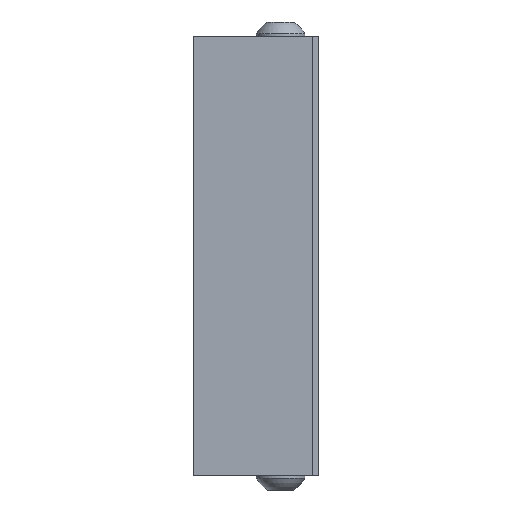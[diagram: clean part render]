
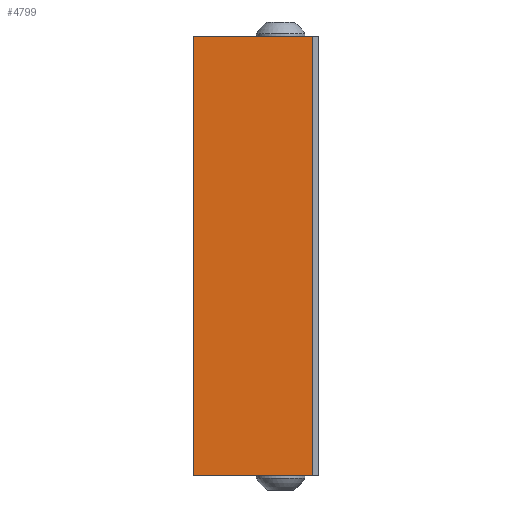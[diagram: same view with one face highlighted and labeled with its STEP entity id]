
A CAD part, left-side view. The second image highlights one B-rep face of the part: STEP entity #4799.
In plain terms, the highlighted planar face has unit normal (-1, 0, 0).
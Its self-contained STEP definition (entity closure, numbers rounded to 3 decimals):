
#334 = LINE ( 'NONE', #742, #4386 ) ;
#543 = VECTOR ( 'NONE', #3691, 1000. ) ;
#558 = CARTESIAN_POINT ( 'NONE',  ( -17.5, -6.5, 51.384 ) ) ;
#742 = CARTESIAN_POINT ( 'NONE',  ( -17.5, 7.5, 51.384 ) ) ;
#758 = CARTESIAN_POINT ( 'NONE',  ( -17.5, 7.5, 51.384 ) ) ;
#775 = CARTESIAN_POINT ( 'NONE',  ( -17.5, -6.5, 0. ) ) ;
#936 = PLANE ( 'NONE',  #2974 ) ;
#1272 = LINE ( 'NONE', #2123, #543 ) ;
#1640 = EDGE_CURVE ( 'NONE', #4811, #3185, #5147, .T. ) ;
#1709 = VECTOR ( 'NONE', #4735, 1000. ) ;
#1826 = EDGE_CURVE ( 'NONE', #3375, #3185, #3531, .T. ) ;
#1877 = VECTOR ( 'NONE', #4803, 1000. ) ;
#1971 = EDGE_CURVE ( 'NONE', #3781, #3375, #1272, .T. ) ;
#2122 = CARTESIAN_POINT ( 'NONE',  ( -17.5, 7.5, 51.384 ) ) ;
#2123 = CARTESIAN_POINT ( 'NONE',  ( -17.5, 7.5, 0. ) ) ;
#2154 = ORIENTED_EDGE ( 'NONE', *, *, #1826, .T. ) ;
#2332 = DIRECTION ( 'NONE',  ( 0., 0., -1. ) ) ;
#2528 = DIRECTION ( 'NONE',  ( 0., 0., -1. ) ) ;
#2558 = DIRECTION ( 'NONE',  ( 1., 0., 0. ) ) ;
#2670 = CARTESIAN_POINT ( 'NONE',  ( -17.5, 7.5, 0. ) ) ;
#2833 = ORIENTED_EDGE ( 'NONE', *, *, #3704, .T. ) ;
#2974 = AXIS2_PLACEMENT_3D ( 'NONE', #2122, #2558, #2528 ) ;
#3028 = CARTESIAN_POINT ( 'NONE',  ( -17.5, 7.5, 51.384 ) ) ;
#3185 = VERTEX_POINT ( 'NONE', #558 ) ;
#3249 = ORIENTED_EDGE ( 'NONE', *, *, #1971, .T. ) ;
#3375 = VERTEX_POINT ( 'NONE', #775 ) ;
#3461 = EDGE_LOOP ( 'NONE', ( #3249, #2154, #3638, #2833 ) ) ;
#3531 = LINE ( 'NONE', #4003, #1877 ) ;
#3638 = ORIENTED_EDGE ( 'NONE', *, *, #1640, .F. ) ;
#3691 = DIRECTION ( 'NONE',  ( 0., -1., 0. ) ) ;
#3704 = EDGE_CURVE ( 'NONE', #4811, #3781, #334, .T. ) ;
#3781 = VERTEX_POINT ( 'NONE', #2670 ) ;
#4003 = CARTESIAN_POINT ( 'NONE',  ( -17.5, -6.5, 51.384 ) ) ;
#4386 = VECTOR ( 'NONE', #2332, 1000. ) ;
#4735 = DIRECTION ( 'NONE',  ( 0., -1., 0. ) ) ;
#4799 = ADVANCED_FACE ( 'NONE', ( #4933 ), #936, .F. ) ;
#4803 = DIRECTION ( 'NONE',  ( 0., 0., 1. ) ) ;
#4811 = VERTEX_POINT ( 'NONE', #3028 ) ;
#4933 = FACE_OUTER_BOUND ( 'NONE', #3461, .T. ) ;
#5147 = LINE ( 'NONE', #758, #1709 ) ;
